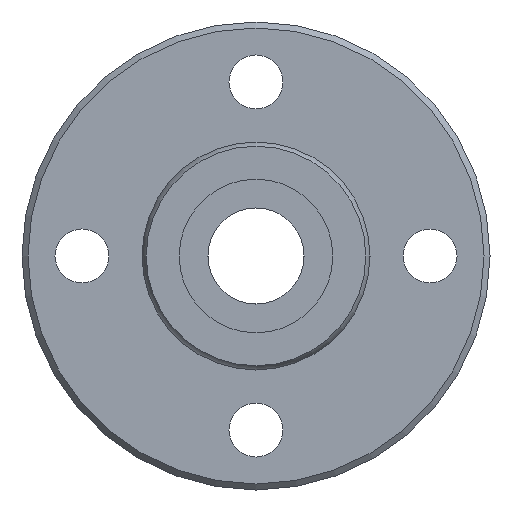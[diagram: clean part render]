
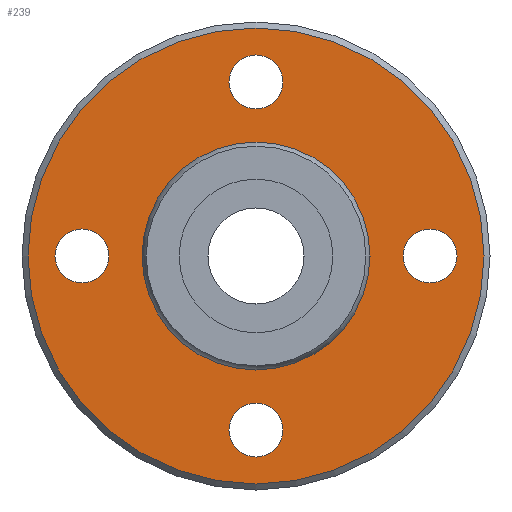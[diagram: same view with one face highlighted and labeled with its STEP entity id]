
A CAD part, left-side view. The second image highlights one B-rep face of the part: STEP entity #239.
In plain terms, the highlighted planar face has unit normal (-1, 0, 0).
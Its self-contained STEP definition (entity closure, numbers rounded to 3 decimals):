
#164=CARTESIAN_POINT('',(22.0,0.,19.));
#165=VERTEX_POINT('',#164);
#166=CARTESIAN_POINT('',(22.0,0.0,0.0));
#167=DIRECTION('',(1.0,0.0,0.0));
#168=DIRECTION('',(0.0,0.0,-1.0));
#169=AXIS2_PLACEMENT_3D('',#166,#167,#168);
#170=CIRCLE('',#169,19.);
#171=EDGE_CURVE('',#165,#165,#170,.T.);
#176=CARTESIAN_POINT('',(22.0,0.0,14.393));
#177=DIRECTION('',(-1.0,0.0,0.0));
#178=DIRECTION('',(0.0,0.0,1.0));
#179=AXIS2_PLACEMENT_3D('',#176,#177,#178);
#180=PLANE('',#179);
#181=ORIENTED_EDGE('',*,*,#171,.F.);
#182=EDGE_LOOP('',(#181));
#183=FACE_OUTER_BOUND('',#182,.T.);
#184=CARTESIAN_POINT('',(22.,0.0,9.286));
#185=VERTEX_POINT('',#184);
#186=CARTESIAN_POINT('',(22.,0.0,0.0));
#187=DIRECTION('',(-1.0,0.0,0.0));
#188=DIRECTION('',(0.0,0.0,1.0));
#189=AXIS2_PLACEMENT_3D('',#186,#187,#188);
#190=CIRCLE('',#189,9.286);
#191=EDGE_CURVE('',#185,#185,#190,.T.);
#192=ORIENTED_EDGE('',*,*,#191,.F.);
#193=EDGE_LOOP('',(#192));
#194=FACE_BOUND('',#193,.T.);
#195=CARTESIAN_POINT('',(22.,-16.75,0.));
#196=VERTEX_POINT('',#195);
#197=CARTESIAN_POINT('',(22.,-14.5,0.));
#198=DIRECTION('',(1.0,0.0,0.0));
#199=DIRECTION('',(0.0,1.0,0.0));
#200=AXIS2_PLACEMENT_3D('',#197,#198,#199);
#201=CIRCLE('',#200,2.25);
#202=EDGE_CURVE('',#196,#196,#201,.T.);
#203=ORIENTED_EDGE('',*,*,#202,.T.);
#204=EDGE_LOOP('',(#203));
#205=FACE_BOUND('',#204,.T.);
#206=CARTESIAN_POINT('',(22.,12.25,0.));
#207=VERTEX_POINT('',#206);
#208=CARTESIAN_POINT('',(22.,14.5,0.));
#209=DIRECTION('',(1.0,0.0,0.0));
#210=DIRECTION('',(0.0,1.0,0.0));
#211=AXIS2_PLACEMENT_3D('',#208,#209,#210);
#212=CIRCLE('',#211,2.25);
#213=EDGE_CURVE('',#207,#207,#212,.T.);
#214=ORIENTED_EDGE('',*,*,#213,.T.);
#215=EDGE_LOOP('',(#214));
#216=FACE_BOUND('',#215,.T.);
#217=CARTESIAN_POINT('',(22.,-2.25,14.5));
#218=VERTEX_POINT('',#217);
#219=CARTESIAN_POINT('',(22.,0.,14.5));
#220=DIRECTION('',(1.0,0.0,0.0));
#221=DIRECTION('',(0.0,1.0,0.0));
#222=AXIS2_PLACEMENT_3D('',#219,#220,#221);
#223=CIRCLE('',#222,2.25);
#224=EDGE_CURVE('',#218,#218,#223,.T.);
#225=ORIENTED_EDGE('',*,*,#224,.T.);
#226=EDGE_LOOP('',(#225));
#227=FACE_BOUND('',#226,.T.);
#228=CARTESIAN_POINT('',(22.,-2.25,-14.5));
#229=VERTEX_POINT('',#228);
#230=CARTESIAN_POINT('',(22.,0.,-14.5));
#231=DIRECTION('',(1.0,0.0,0.0));
#232=DIRECTION('',(0.0,1.0,0.0));
#233=AXIS2_PLACEMENT_3D('',#230,#231,#232);
#234=CIRCLE('',#233,2.25);
#235=EDGE_CURVE('',#229,#229,#234,.T.);
#236=ORIENTED_EDGE('',*,*,#235,.T.);
#237=EDGE_LOOP('',(#236));
#238=FACE_BOUND('',#237,.T.);
#239=ADVANCED_FACE('',(#183,#194,#205,#216,#227,#238),#180,.T.);
